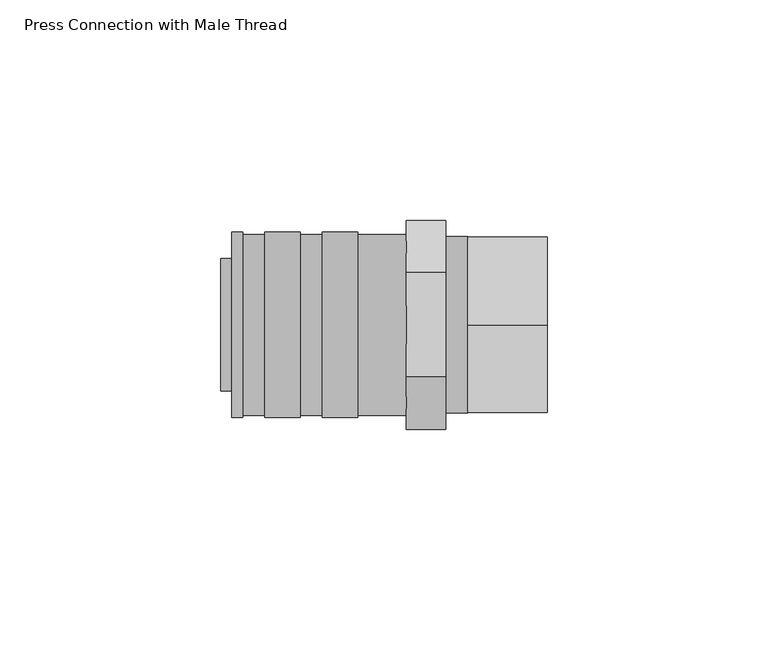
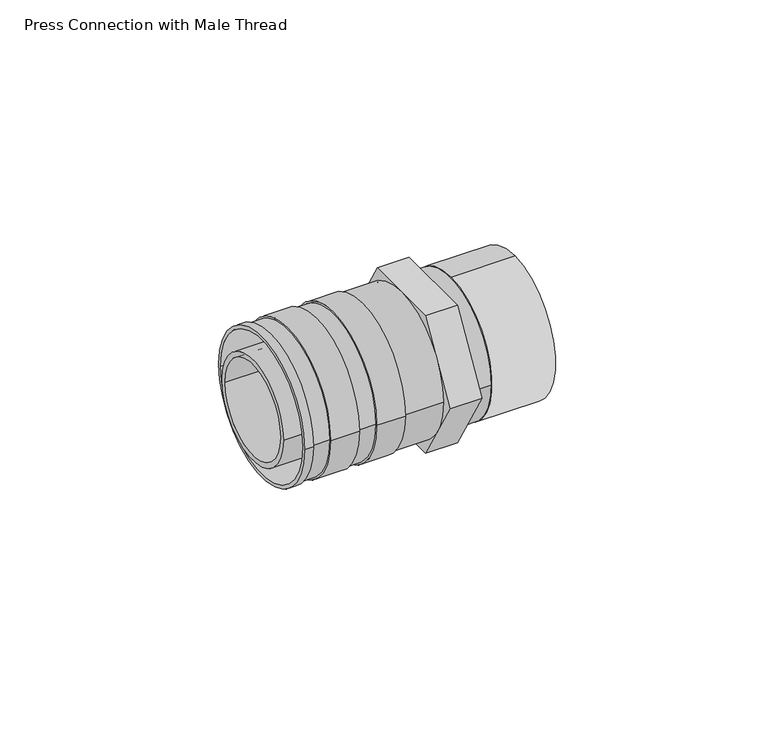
"""IFC4 building model written with IfcOpenShell, lengths in millimetres: pipe fitting geometry, Press Connection with Male Thread : Superpipe Press Connection - 40x1¼” MT."""

from ifc_helpers import new_model, si_unit, point, frame, origin, origin_2d, place, context, project, spatial, polyline, circle_curve, trimmed, segment, composite_curve, outline, extrude, source, transform, mapped, element, save
from ifc_brep_helpers import plane_surface, cylinder_surface, revolved_surface, advanced_brep


def press_connection_with_male_thread_6ec6f002(model_context):
    return source(origin(), model_context, "Body", "SolidModel", [
        extrude(outline(composite_curve([segment(trimmed(circle_curve(origin_2d(), 20.0), [point((0.0, -20.0))], [point((0.0, 20.0))], False, "CARTESIAN"), True, "CONTINUOUS"), segment(trimmed(circle_curve(origin_2d(), 20.0), [point((0.0, 20.0))], [point((0.0, -20.0))], False, "CARTESIAN"), True, "CONTINUOUS")], self_intersect=False), holes=[composite_curve([segment(trimmed(circle_curve(origin_2d(), 16.0), [point((0.0, -16.0))], [point((0.0, 16.0))], True, "CARTESIAN"), True, "CONTINUOUS"), segment(trimmed(circle_curve(origin_2d(), 16.0), [point((0.0, 16.0))], [point((0.0, -16.0))], True, "CARTESIAN"), True, "CONTINUOUS")], self_intersect=False)]), frame((56.0, 0.0, 0.0), z_axis=(1.0, 0.0, 0.0), x_axis=(0.0, 1.0, 0.0)), (0.0, 0.0, 1.0), 18.0),
        advanced_brep(
        [(2.5, 21.0, 0.0), (2.5, -21.0, 0.0), (2.5, 20.0, 0.0), (2.5, -20.0, 0.0), (42.0, -20.5, 0.0), (42.0, 20.5, 0.0), (42.0, 20.0, 0.0), (42.0, -20.0, 0.0), (5.0, 21.0, 0.0), (5.0, -21.0, 0.0), (31.0, 21.0, 0.0), (31.0, -21.0, 0.0), (23.0, -21.0, 0.0), (23.0, 21.0, 0.0), (18.0, 21.0, 0.0), (18.0, -21.0, 0.0), (10.0, -21.0, 0.0), (10.0, 21.0, 0.0), (31.0, 20.5, 0.0), (31.0, -20.5, 0.0), (23.0, -20.5, 0.0), (23.0, 20.5, 0.0), (18.0, 20.5, 0.0), (18.0, -20.5, 0.0), (10.0, -20.5, 0.0), (10.0, 20.5, 0.0), (5.0, 20.5, 0.0), (5.0, -20.5, 0.0)],
        [
            (0, 1, circle_curve(frame((2.5, 0.0, 0.0), z_axis=(-1.0, 0.0, 0.0), x_axis=(0.0, -1.0, 0.0)), 21.0)),
            (1, 0, circle_curve(frame((2.5, 0.0, 0.0), z_axis=(-1.0, 0.0, 0.0), x_axis=(0.0, -1.0, 0.0)), 21.0)),
            (2, 3, circle_curve(frame((2.5, 0.0, 0.0), z_axis=(1.0, 0.0, 0.0), x_axis=(0.0, -1.0, 0.0)), 20.0)),
            (3, 2, circle_curve(frame((2.5, 0.0, 0.0), z_axis=(1.0, 0.0, 0.0), x_axis=(0.0, -1.0, 0.0)), 20.0)),
            (4, 5, circle_curve(frame((42.0, 0.0, 0.0), z_axis=(1.0, 0.0, 0.0), x_axis=(0.0, 1.0, 0.0)), 20.5)),
            (5, 4, circle_curve(frame((42.0, 0.0, 0.0), z_axis=(1.0, 0.0, 0.0), x_axis=(0.0, 1.0, 0.0)), 20.5)),
            (6, 7, circle_curve(frame((42.0, 0.0, 0.0), z_axis=(-1.0, 0.0, 0.0), x_axis=(0.0, -1.0, 0.0)), 20.0)),
            (7, 6, circle_curve(frame((42.0, 0.0, 0.0), z_axis=(-1.0, 0.0, 0.0), x_axis=(0.0, -1.0, 0.0)), 20.0)),
            (0, 8),
            (8, 9, circle_curve(frame((5.0, 0.0, 0.0), z_axis=(-1.0, 0.0, 0.0), x_axis=(0.0, -1.0, 0.0)), 21.0)),
            (9, 1),
            (10, 11, circle_curve(frame((31.0, 0.0, 0.0), z_axis=(-1.0, 0.0, 0.0), x_axis=(0.0, -1.0, 0.0)), 21.0)),
            (11, 12),
            (12, 13, circle_curve(frame((23.0, 0.0, 0.0), z_axis=(1.0, 0.0, 0.0), x_axis=(0.0, -1.0, 0.0)), 21.0)),
            (13, 10),
            (14, 15, circle_curve(frame((18.0, 0.0, 0.0), z_axis=(-1.0, 0.0, 0.0), x_axis=(0.0, -1.0, 0.0)), 21.0)),
            (15, 16),
            (16, 17, circle_curve(frame((10.0, 0.0, 0.0), z_axis=(1.0, 0.0, 0.0), x_axis=(0.0, -1.0, 0.0)), 21.0)),
            (17, 14),
            (9, 8, circle_curve(frame((5.0, 0.0, 0.0), z_axis=(-1.0, 0.0, 0.0), x_axis=(0.0, -1.0, 0.0)), 21.0)),
            (11, 10, circle_curve(frame((31.0, 0.0, 0.0), z_axis=(-1.0, 0.0, 0.0), x_axis=(0.0, -1.0, 0.0)), 21.0)),
            (13, 12, circle_curve(frame((23.0, 0.0, 0.0), z_axis=(1.0, 0.0, 0.0), x_axis=(0.0, -1.0, 0.0)), 21.0)),
            (15, 14, circle_curve(frame((18.0, 0.0, 0.0), z_axis=(-1.0, 0.0, 0.0), x_axis=(0.0, -1.0, 0.0)), 21.0)),
            (17, 16, circle_curve(frame((10.0, 0.0, 0.0), z_axis=(1.0, 0.0, 0.0), x_axis=(0.0, -1.0, 0.0)), 21.0)),
            (2, 6),
            (7, 3),
            (18, 19, circle_curve(frame((31.0, 0.0, 0.0), z_axis=(-1.0, 0.0, 0.0), x_axis=(0.0, 1.0, 0.0)), 20.5)),
            (19, 11),
            (10, 18),
            (19, 18, circle_curve(frame((31.0, 0.0, 0.0), z_axis=(-1.0, 0.0, 0.0), x_axis=(0.0, 1.0, 0.0)), 20.5)),
            (18, 5),
            (4, 19),
            (20, 21, circle_curve(frame((23.0, 0.0, 0.0), z_axis=(1.0, 0.0, 0.0), x_axis=(0.0, 1.0, 0.0)), 20.5)),
            (21, 13),
            (12, 20),
            (21, 20, circle_curve(frame((23.0, 0.0, 0.0), z_axis=(1.0, 0.0, 0.0), x_axis=(0.0, 1.0, 0.0)), 20.5)),
            (22, 23, circle_curve(frame((18.0, 0.0, 0.0), z_axis=(-1.0, 0.0, 0.0), x_axis=(0.0, 1.0, 0.0)), 20.5)),
            (23, 15),
            (14, 22),
            (23, 22, circle_curve(frame((18.0, 0.0, 0.0), z_axis=(-1.0, 0.0, 0.0), x_axis=(0.0, 1.0, 0.0)), 20.5)),
            (20, 23),
            (22, 21),
            (24, 25, circle_curve(frame((10.0, 0.0, 0.0), z_axis=(1.0, 0.0, 0.0), x_axis=(0.0, 1.0, 0.0)), 20.5)),
            (25, 17),
            (16, 24),
            (25, 24, circle_curve(frame((10.0, 0.0, 0.0), z_axis=(1.0, 0.0, 0.0), x_axis=(0.0, 1.0, 0.0)), 20.5)),
            (26, 27, circle_curve(frame((5.0, 0.0, 0.0), z_axis=(-1.0, 0.0, 0.0), x_axis=(0.0, 1.0, 0.0)), 20.5)),
            (27, 9),
            (8, 26),
            (27, 26, circle_curve(frame((5.0, 0.0, 0.0), z_axis=(-1.0, 0.0, 0.0), x_axis=(0.0, 1.0, 0.0)), 20.5)),
            (24, 27),
            (26, 25),
        ],
        [
            plane_surface(frame((2.5, -21.0, 0.0), z_axis=(-1.0, 0.0, 0.0), x_axis=(0.0, 0.0, 1.0))),
            plane_surface(frame((42.0, -21.0, 0.0), z_axis=(1.0, 0.0, 0.0), x_axis=(0.0, 0.0, -1.0))),
            cylinder_surface(frame((42.0, 0.0, 0.0), z_axis=(-1.0, 0.0, 0.0), x_axis=(0.0, -1.0, 0.0)), 21.0),
            revolved_surface(polyline([(42.0, -20.0, 0.0), (2.5, -20.0, 0.0)]), (42.0, 0.0, 0.0), (1.0, 0.0, 0.0)),
            plane_surface(frame((31.0, 0.0, 0.0), z_axis=(1.0, 0.0, 0.0), x_axis=(0.0, 1.0, 0.0))),
            cylinder_surface(frame((2012.0, 0.0, 0.0), z_axis=(-1.0, 0.0, 0.0), x_axis=(0.0, 1.0, 0.0)), 20.5),
            plane_surface(frame((23.0, 0.0, 0.0), z_axis=(-1.0, 0.0, 0.0), x_axis=(0.0, 1.0, 0.0))),
            plane_surface(frame((18.0, 0.0, 0.0), z_axis=(1.0, 0.0, 0.0), x_axis=(0.0, 1.0, 0.0))),
            plane_surface(frame((10.0, 0.0, 0.0), z_axis=(-1.0, 0.0, 0.0), x_axis=(0.0, 1.0, 0.0))),
            plane_surface(frame((5.0, 0.0, 0.0), z_axis=(1.0, 0.0, 0.0), x_axis=(0.0, 1.0, 0.0))),
        ],
        [
            (0, [[1, 2], [3, 4]]),
            (1, [[5, 6], [7, 8]]),
            (2, [[-1, 9, 10, 11]]),
            (2, [[12, 13, 14, 15]]),
            (2, [[16, 17, 18, 19]]),
            (2, [[-2, -11, 20, -9]]),
            (2, [[21, -15, 22, -13]]),
            (2, [[23, -19, 24, -17]]),
            (3, [[-3, 25, -8, 26]]),
            (3, [[-4, -26, -7, -25]]),
            (4, [[27, 28, -12, 29]]),
            (4, [[30, -29, -21, -28]]),
            (5, [[-27, 31, -5, 32]]),
            (5, [[-30, -32, -6, -31]]),
            (6, [[33, 34, -14, 35]]),
            (6, [[36, -35, -22, -34]]),
            (7, [[37, 38, -16, 39]]),
            (7, [[40, -39, -23, -38]]),
            (5, [[-33, 41, -37, 42]]),
            (5, [[-36, -42, -40, -41]]),
            (8, [[43, 44, -18, 45]]),
            (8, [[46, -45, -24, -44]]),
            (9, [[47, 48, -10, 49]]),
            (9, [[50, -49, -20, -48]]),
            (5, [[-43, 51, -47, 52]]),
            (5, [[-46, -52, -50, -51]]),
        ],
    ),
        extrude(outline(composite_curve([segment(trimmed(circle_curve(origin_2d(), 20.0), [point((-20.0, 0.0))], [point((20.0, 0.0))], False, "CARTESIAN"), True, "CONTINUOUS"), segment(trimmed(circle_curve(origin_2d(), 20.0), [point((20.0, 0.0))], [point((-20.0, 0.0))], False, "CARTESIAN"), True, "CONTINUOUS")], self_intersect=False), holes=[composite_curve([segment(trimmed(circle_curve(origin_2d(), 16.0), [point((-16.0, 0.0))], [point((16.0, 0.0))], True, "CARTESIAN"), True, "CONTINUOUS"), segment(trimmed(circle_curve(origin_2d(), 16.0), [point((16.0, 0.0))], [point((-16.0, 0.0))], True, "CARTESIAN"), True, "CONTINUOUS")], self_intersect=False)]), frame((51.0, 0.0, 0.0), z_axis=(1.0, 0.0, 0.0), x_axis=(0.0, 1.0, 0.0)), (0.0, 0.0, 1.0), 5.0),
        extrude(outline(polyline([(-23.671361, 0.0), (-11.8356805, 20.5), (11.8356805, 20.5), (23.671361, 0.0), (11.8356805, -20.5), (-11.8356805, -20.5), (-23.671361, 0.0)]), holes=[composite_curve([segment(trimmed(circle_curve(origin_2d(), 13.5), [point((13.5, 0.0))], [point((-13.5, 0.0))], True, "CARTESIAN"), True, "CONTINUOUS"), segment(trimmed(circle_curve(origin_2d(), 13.5), [point((-13.5, 0.0))], [point((13.5, 0.0))], True, "CARTESIAN"), True, "CONTINUOUS")], self_intersect=False)]), frame((42.0, 0.0, 0.0), z_axis=(1.0, 0.0, 0.0), x_axis=(0.0, 1.0, 0.0)), (0.0, 0.0, 1.0), 9.0),
        extrude(outline(composite_curve([segment(trimmed(circle_curve(origin_2d(), 15.0), [point((-15.0, 0.0))], [point((15.0, 0.0))], False, "CARTESIAN"), True, "CONTINUOUS"), segment(trimmed(circle_curve(origin_2d(), 15.0), [point((15.0, 0.0))], [point((-15.0, 0.0))], False, "CARTESIAN"), True, "CONTINUOUS")], self_intersect=False), holes=[composite_curve([segment(trimmed(circle_curve(origin_2d(), 13.5), [point((13.5, 0.0))], [point((-13.5, 0.0))], True, "CARTESIAN"), True, "CONTINUOUS"), segment(trimmed(circle_curve(origin_2d(), 13.5), [point((-13.5, 0.0))], [point((13.5, 0.0))], True, "CARTESIAN"), True, "CONTINUOUS")], self_intersect=False)]), frame((0.0, 0.0, 0.0), z_axis=(1.0, 0.0, 0.0), x_axis=(0.0, 1.0, 0.0)), (0.0, 0.0, 1.0), 42.0),
    ])


if __name__ == "__main__":
    model = new_model("IFC4")
    model_context = context("Model", 3, world=origin())
    ifc_project = project(units=[si_unit("LENGTHUNIT", "METRE", prefix="MILLI")], contexts=[model_context])
    site = spatial("IfcSite", under=ifc_project)
    building = spatial("IfcBuilding", under=site)
    placement = place(None, origin())
    press_connection_with_male_thread_shape = press_connection_with_male_thread_6ec6f002(model_context)
    element("IfcPipeFitting", 1, ObjectType="Press Connection with Male Thread : Superpipe Press Connection - 40x1¼” MT", at=placement, inside=building, context=model_context, shape_type="MappedRepresentation", body=[
        mapped(press_connection_with_male_thread_shape, transform((0.0, 0.0, 0.0), x_axis=(1.0, 0.0, 0.0), y_axis=(0.0, 1.0, 0.0), z_axis=(0.0, 0.0, 1.0))),
    ])
    save(model, "model.ifc")
